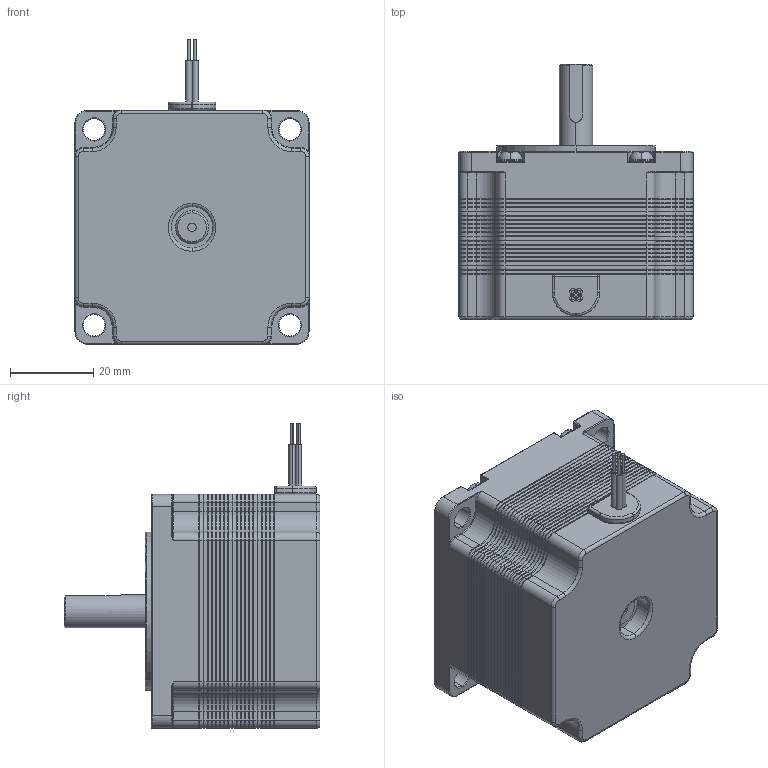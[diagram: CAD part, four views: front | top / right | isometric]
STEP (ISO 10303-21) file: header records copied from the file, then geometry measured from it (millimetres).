
FILE_DESCRIPTION (( 'STEP AP214' ), '1' );
FILE_NAME ('Nema 23 Stepper Motor length 41mm_8mm_key.STEP', '2020-11-11T14:42:24', ( 'Moofasta' ), ( '' ), 'SwSTEP 2.0', 'SolidWorks 2020', '' );
FILE_SCHEMA (( 'AUTOMOTIVE_DESIGN' ));
Length unit declared in the file: millimetre
Products named in the file (1): Nema 23 Stepper Motor length 41mm_8mm_key
Bounding box: 56.3 x 61.5 x 73.3 mm (x, y, z)
Volume: 118821.9 mm3; surface area: 124895.5 mm2
Topology: 34 solids, 34 shells, 1810 faces, 4125 edges, 2369 vertices
Faces by surface type: plane 857, cone 460, cylinder 379, torus 94, sphere 12, bspline 8
Entity records: 66376 total; most frequent: DIRECTION 8998, CARTESIAN_POINT 8767, ORIENTED_EDGE 8210, EDGE_CURVE 4105, AXIS2_PLACEMENT_3D 3166, LINE 2666, VECTOR 2666, VERTEX_POINT 2369
